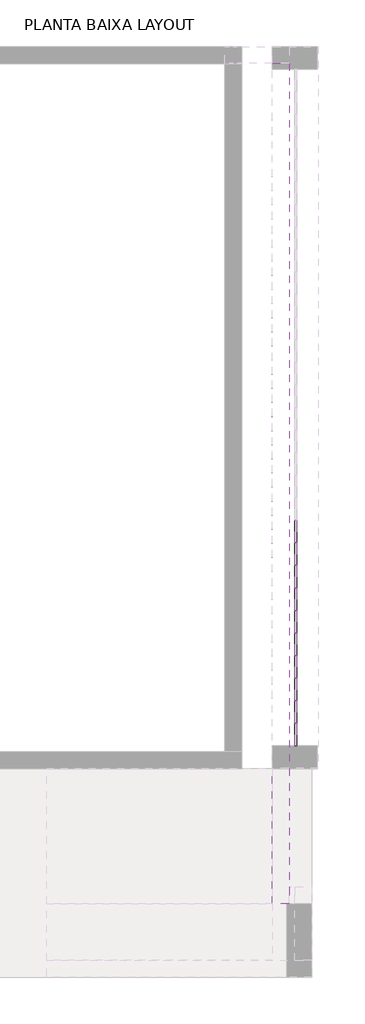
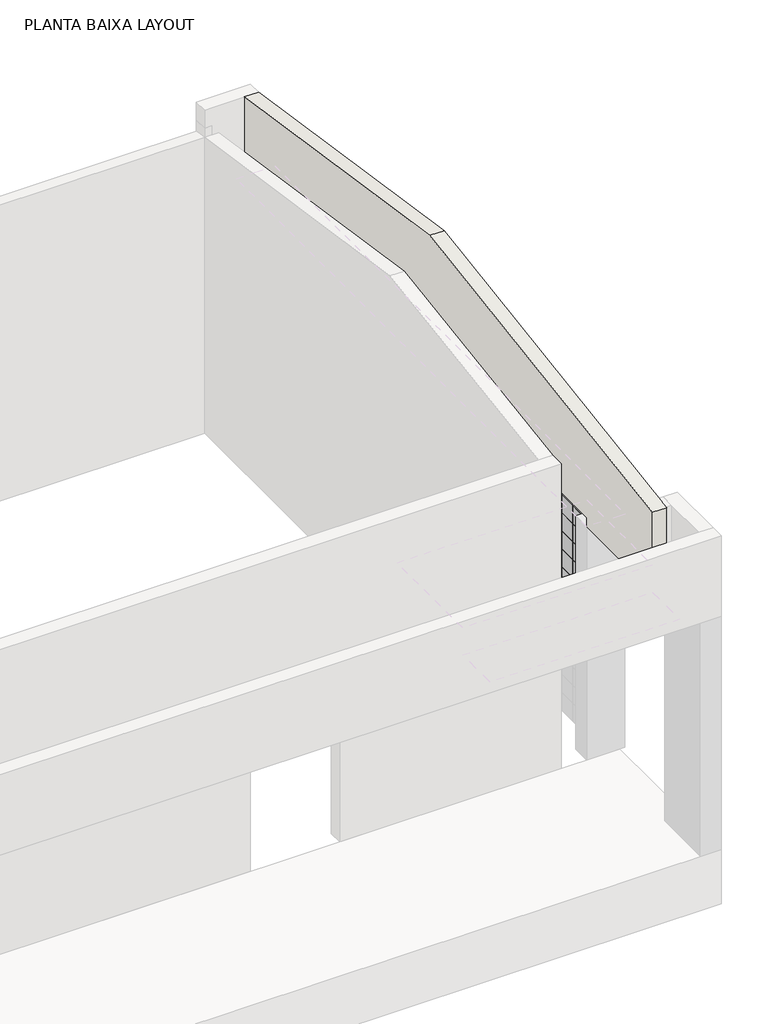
# One storey, part 3 of 6: 121 plates, 1 wall.
"""IFC4 building model written with IfcOpenShell, lengths in millimetres."""

from ifc_helpers import new_model, si_unit, origin, place, context, project, spatial, faceted_brep, transform, mapped, element, save
from components import system_panel_vidro_2cm_d02c202c

model = new_model("IFC4")

# Units and contexts
model_context = context("Model", 3, world=origin())
ifc_project = project(units=[si_unit("LENGTHUNIT", "METRE", prefix="MILLI")], contexts=[model_context])

# Site, building, storey
site = spatial("IfcSite", under=ifc_project)
building = spatial("IfcBuilding", under=site)
storey = spatial("IfcBuildingStorey", under=building, Name="PLANTA BAIXA LAYOUT", Elevation=0.0)

# Plates
placement = place(None, origin())
system_panel_vidro_2cm_shape = system_panel_vidro_2cm_d02c202c(model_context)
element("IfcPlate", 1, ObjectType="System Panel : Vidro 2cm", at=placement, inside=storey, context=model_context, shape_type="MappedRepresentation", body=[
    mapped(system_panel_vidro_2cm_shape, transform((17877.6165906, -6817.0637549, 0.0), x_axis=(0.0, 1.0, 0.0), y_axis=(-1.0, 0.0, 0.0), z_axis=(0.0, 0.0, 1.0))),
])
element("IfcPlate", 2, ObjectType="System Panel : Vidro 2cm", at=placement, inside=storey, context=model_context, shape_type="MappedRepresentation", body=[
    mapped(system_panel_vidro_2cm_shape, transform((17877.6165906, -6617.0637549, 0.0), x_axis=(0.0, 1.0, 0.0), y_axis=(-1.0, 0.0, 0.0), z_axis=(0.0, 0.0, 1.0))),
])
element("IfcPlate", 3, ObjectType="System Panel : Vidro 2cm", at=placement, inside=storey, context=model_context, shape_type="MappedRepresentation", body=[
    mapped(system_panel_vidro_2cm_shape, transform((17877.6165906, -6417.0637549, 0.0), x_axis=(0.0, 1.0, 0.0), y_axis=(-1.0, 0.0, 0.0), z_axis=(0.0, 0.0, 1.0))),
])
element("IfcPlate", 4, ObjectType="System Panel : Vidro 2cm", at=placement, inside=storey, context=model_context, shape_type="MappedRepresentation", body=[
    mapped(system_panel_vidro_2cm_shape, transform((17877.6165906, -6217.0637549, 0.0), x_axis=(0.0, 1.0, 0.0), y_axis=(-1.0, 0.0, 0.0), z_axis=(0.0, 0.0, 1.0))),
])
element("IfcPlate", 5, ObjectType="System Panel : Vidro 2cm", at=placement, inside=storey, context=model_context, shape_type="MappedRepresentation", body=[
    mapped(system_panel_vidro_2cm_shape, transform((17877.6165906, -6017.0637549, 0.0), x_axis=(0.0, 1.0, 0.0), y_axis=(-1.0, 0.0, 0.0), z_axis=(0.0, 0.0, 1.0))),
])
element("IfcPlate", 6, ObjectType="System Panel : Vidro 2cm", at=placement, inside=storey, context=model_context, shape_type="MappedRepresentation", body=[
    mapped(system_panel_vidro_2cm_shape, transform((17877.6165906, -5817.0637549, 0.0), x_axis=(0.0, 1.0, 0.0), y_axis=(-1.0, 0.0, 0.0), z_axis=(0.0, 0.0, 1.0))),
])
element("IfcPlate", 7, ObjectType="System Panel : Vidro 2cm", at=placement, inside=storey, context=model_context, shape_type="MappedRepresentation", body=[
    mapped(system_panel_vidro_2cm_shape, transform((17877.6165906, -5617.0637549, 0.0), x_axis=(0.0, 1.0, 0.0), y_axis=(-1.0, 0.0, 0.0), z_axis=(0.0, 0.0, 1.0))),
])
element("IfcPlate", 8, ObjectType="System Panel : Vidro 2cm", at=placement, inside=storey, context=model_context, shape_type="MappedRepresentation", body=[
    mapped(system_panel_vidro_2cm_shape, transform((17877.6165906, -5417.0637549, 0.0), x_axis=(0.0, 1.0, 0.0), y_axis=(-1.0, 0.0, 0.0), z_axis=(0.0, 0.0, 1.0))),
])
element("IfcPlate", 9, ObjectType="System Panel : Vidro 2cm", at=placement, inside=storey, context=model_context, shape_type="MappedRepresentation", body=[
    mapped(system_panel_vidro_2cm_shape, transform((17877.6165906, -5217.0637549, 0.0), x_axis=(0.0, 1.0, 0.0), y_axis=(-1.0, 0.0, 0.0), z_axis=(0.0, 0.0, 1.0))),
])
element("IfcPlate", 10, ObjectType="System Panel : Vidro 2cm", at=placement, inside=storey, context=model_context, shape_type="MappedRepresentation", body=[
    mapped(system_panel_vidro_2cm_shape, transform((17877.6165906, -5017.0637549, 0.0), x_axis=(0.0, 1.0, 0.0), y_axis=(-1.0, 0.0, 0.0), z_axis=(0.0, 0.0, 1.0))),
])
element("IfcPlate", 11, ObjectType="System Panel : Vidro 2cm", at=placement, inside=storey, context=model_context, shape_type="MappedRepresentation", body=[
    mapped(system_panel_vidro_2cm_shape, transform((17877.6165906, -6817.0637549, 200.0), x_axis=(0.0, 1.0, 0.0), y_axis=(-1.0, 0.0, 0.0), z_axis=(0.0, 0.0, 1.0))),
])
element("IfcPlate", 12, ObjectType="System Panel : Vidro 2cm", at=placement, inside=storey, context=model_context, shape_type="MappedRepresentation", body=[
    mapped(system_panel_vidro_2cm_shape, transform((17877.6165906, -6617.0637549, 200.0), x_axis=(0.0, 1.0, 0.0), y_axis=(-1.0, 0.0, 0.0), z_axis=(0.0, 0.0, 1.0))),
])
element("IfcPlate", 13, ObjectType="System Panel : Vidro 2cm", at=placement, inside=storey, context=model_context, shape_type="MappedRepresentation", body=[
    mapped(system_panel_vidro_2cm_shape, transform((17877.6165906, -6417.0637549, 200.0), x_axis=(0.0, 1.0, 0.0), y_axis=(-1.0, 0.0, 0.0), z_axis=(0.0, 0.0, 1.0))),
])
element("IfcPlate", 14, ObjectType="System Panel : Vidro 2cm", at=placement, inside=storey, context=model_context, shape_type="MappedRepresentation", body=[
    mapped(system_panel_vidro_2cm_shape, transform((17877.6165906, -6217.0637549, 200.0), x_axis=(0.0, 1.0, 0.0), y_axis=(-1.0, 0.0, 0.0), z_axis=(0.0, 0.0, 1.0))),
])
element("IfcPlate", 15, ObjectType="System Panel : Vidro 2cm", at=placement, inside=storey, context=model_context, shape_type="MappedRepresentation", body=[
    mapped(system_panel_vidro_2cm_shape, transform((17877.6165906, -6017.0637549, 200.0), x_axis=(0.0, 1.0, 0.0), y_axis=(-1.0, 0.0, 0.0), z_axis=(0.0, 0.0, 1.0))),
])
element("IfcPlate", 16, ObjectType="System Panel : Vidro 2cm", at=placement, inside=storey, context=model_context, shape_type="MappedRepresentation", body=[
    mapped(system_panel_vidro_2cm_shape, transform((17877.6165906, -5817.0637549, 200.0), x_axis=(0.0, 1.0, 0.0), y_axis=(-1.0, 0.0, 0.0), z_axis=(0.0, 0.0, 1.0))),
])
element("IfcPlate", 17, ObjectType="System Panel : Vidro 2cm", at=placement, inside=storey, context=model_context, shape_type="MappedRepresentation", body=[
    mapped(system_panel_vidro_2cm_shape, transform((17877.6165906, -5617.0637549, 200.0), x_axis=(0.0, 1.0, 0.0), y_axis=(-1.0, 0.0, 0.0), z_axis=(0.0, 0.0, 1.0))),
])
element("IfcPlate", 18, ObjectType="System Panel : Vidro 2cm", at=placement, inside=storey, context=model_context, shape_type="MappedRepresentation", body=[
    mapped(system_panel_vidro_2cm_shape, transform((17877.6165906, -5417.0637549, 200.0), x_axis=(0.0, 1.0, 0.0), y_axis=(-1.0, 0.0, 0.0), z_axis=(0.0, 0.0, 1.0))),
])
element("IfcPlate", 19, ObjectType="System Panel : Vidro 2cm", at=placement, inside=storey, context=model_context, shape_type="MappedRepresentation", body=[
    mapped(system_panel_vidro_2cm_shape, transform((17877.6165906, -5217.0637549, 200.0), x_axis=(0.0, 1.0, 0.0), y_axis=(-1.0, 0.0, 0.0), z_axis=(0.0, 0.0, 1.0))),
])
element("IfcPlate", 20, ObjectType="System Panel : Vidro 2cm", at=placement, inside=storey, context=model_context, shape_type="MappedRepresentation", body=[
    mapped(system_panel_vidro_2cm_shape, transform((17877.6165906, -5017.0637549, 200.0), x_axis=(0.0, 1.0, 0.0), y_axis=(-1.0, 0.0, 0.0), z_axis=(0.0, 0.0, 1.0))),
])
element("IfcPlate", 21, ObjectType="System Panel : Vidro 2cm", at=placement, inside=storey, context=model_context, shape_type="MappedRepresentation", body=[
    mapped(system_panel_vidro_2cm_shape, transform((17877.6165906, -6817.0637549, 400.0), x_axis=(0.0, 1.0, 0.0), y_axis=(-1.0, 0.0, 0.0), z_axis=(0.0, 0.0, 1.0))),
])
element("IfcPlate", 22, ObjectType="System Panel : Vidro 2cm", at=placement, inside=storey, context=model_context, shape_type="MappedRepresentation", body=[
    mapped(system_panel_vidro_2cm_shape, transform((17877.6165906, -6617.0637549, 400.0), x_axis=(0.0, 1.0, 0.0), y_axis=(-1.0, 0.0, 0.0), z_axis=(0.0, 0.0, 1.0))),
])
element("IfcPlate", 23, ObjectType="System Panel : Vidro 2cm", at=placement, inside=storey, context=model_context, shape_type="MappedRepresentation", body=[
    mapped(system_panel_vidro_2cm_shape, transform((17877.6165906, -6417.0637549, 400.0), x_axis=(0.0, 1.0, 0.0), y_axis=(-1.0, 0.0, 0.0), z_axis=(0.0, 0.0, 1.0))),
])
element("IfcPlate", 24, ObjectType="System Panel : Vidro 2cm", at=placement, inside=storey, context=model_context, shape_type="MappedRepresentation", body=[
    mapped(system_panel_vidro_2cm_shape, transform((17877.6165906, -6217.0637549, 400.0), x_axis=(0.0, 1.0, 0.0), y_axis=(-1.0, 0.0, 0.0), z_axis=(0.0, 0.0, 1.0))),
])
element("IfcPlate", 25, ObjectType="System Panel : Vidro 2cm", at=placement, inside=storey, context=model_context, shape_type="MappedRepresentation", body=[
    mapped(system_panel_vidro_2cm_shape, transform((17877.6165906, -6017.0637549, 400.0), x_axis=(0.0, 1.0, 0.0), y_axis=(-1.0, 0.0, 0.0), z_axis=(0.0, 0.0, 1.0))),
])
element("IfcPlate", 26, ObjectType="System Panel : Vidro 2cm", at=placement, inside=storey, context=model_context, shape_type="MappedRepresentation", body=[
    mapped(system_panel_vidro_2cm_shape, transform((17877.6165906, -5817.0637549, 400.0), x_axis=(0.0, 1.0, 0.0), y_axis=(-1.0, 0.0, 0.0), z_axis=(0.0, 0.0, 1.0))),
])
element("IfcPlate", 27, ObjectType="System Panel : Vidro 2cm", at=placement, inside=storey, context=model_context, shape_type="MappedRepresentation", body=[
    mapped(system_panel_vidro_2cm_shape, transform((17877.6165906, -5617.0637549, 400.0), x_axis=(0.0, 1.0, 0.0), y_axis=(-1.0, 0.0, 0.0), z_axis=(0.0, 0.0, 1.0))),
])
element("IfcPlate", 28, ObjectType="System Panel : Vidro 2cm", at=placement, inside=storey, context=model_context, shape_type="MappedRepresentation", body=[
    mapped(system_panel_vidro_2cm_shape, transform((17877.6165906, -5417.0637549, 400.0), x_axis=(0.0, 1.0, 0.0), y_axis=(-1.0, 0.0, 0.0), z_axis=(0.0, 0.0, 1.0))),
])
element("IfcPlate", 29, ObjectType="System Panel : Vidro 2cm", at=placement, inside=storey, context=model_context, shape_type="MappedRepresentation", body=[
    mapped(system_panel_vidro_2cm_shape, transform((17877.6165906, -5217.0637549, 400.0), x_axis=(0.0, 1.0, 0.0), y_axis=(-1.0, 0.0, 0.0), z_axis=(0.0, 0.0, 1.0))),
])
element("IfcPlate", 30, ObjectType="System Panel : Vidro 2cm", at=placement, inside=storey, context=model_context, shape_type="MappedRepresentation", body=[
    mapped(system_panel_vidro_2cm_shape, transform((17877.6165906, -5017.0637549, 400.0), x_axis=(0.0, 1.0, 0.0), y_axis=(-1.0, 0.0, 0.0), z_axis=(0.0, 0.0, 1.0))),
])
element("IfcPlate", 31, ObjectType="System Panel : Vidro 2cm", at=placement, inside=storey, context=model_context, shape_type="MappedRepresentation", body=[
    mapped(system_panel_vidro_2cm_shape, transform((17877.6165906, -6817.0637549, 600.0), x_axis=(0.0, 1.0, 0.0), y_axis=(-1.0, 0.0, 0.0), z_axis=(0.0, 0.0, 1.0))),
])
element("IfcPlate", 32, ObjectType="System Panel : Vidro 2cm", at=placement, inside=storey, context=model_context, shape_type="MappedRepresentation", body=[
    mapped(system_panel_vidro_2cm_shape, transform((17877.6165906, -6617.0637549, 600.0), x_axis=(0.0, 1.0, 0.0), y_axis=(-1.0, 0.0, 0.0), z_axis=(0.0, 0.0, 1.0))),
])
element("IfcPlate", 33, ObjectType="System Panel : Vidro 2cm", at=placement, inside=storey, context=model_context, shape_type="MappedRepresentation", body=[
    mapped(system_panel_vidro_2cm_shape, transform((17877.6165906, -6417.0637549, 600.0), x_axis=(0.0, 1.0, 0.0), y_axis=(-1.0, 0.0, 0.0), z_axis=(0.0, 0.0, 1.0))),
])
element("IfcPlate", 34, ObjectType="System Panel : Vidro 2cm", at=placement, inside=storey, context=model_context, shape_type="MappedRepresentation", body=[
    mapped(system_panel_vidro_2cm_shape, transform((17877.6165906, -6217.0637549, 600.0), x_axis=(0.0, 1.0, 0.0), y_axis=(-1.0, 0.0, 0.0), z_axis=(0.0, 0.0, 1.0))),
])
element("IfcPlate", 35, ObjectType="System Panel : Vidro 2cm", at=placement, inside=storey, context=model_context, shape_type="MappedRepresentation", body=[
    mapped(system_panel_vidro_2cm_shape, transform((17877.6165906, -6017.0637549, 600.0), x_axis=(0.0, 1.0, 0.0), y_axis=(-1.0, 0.0, 0.0), z_axis=(0.0, 0.0, 1.0))),
])
element("IfcPlate", 36, ObjectType="System Panel : Vidro 2cm", at=placement, inside=storey, context=model_context, shape_type="MappedRepresentation", body=[
    mapped(system_panel_vidro_2cm_shape, transform((17877.6165906, -5817.0637549, 600.0), x_axis=(0.0, 1.0, 0.0), y_axis=(-1.0, 0.0, 0.0), z_axis=(0.0, 0.0, 1.0))),
])
element("IfcPlate", 37, ObjectType="System Panel : Vidro 2cm", at=placement, inside=storey, context=model_context, shape_type="MappedRepresentation", body=[
    mapped(system_panel_vidro_2cm_shape, transform((17877.6165906, -6817.0637549, 800.0), x_axis=(0.0, 1.0, 0.0), y_axis=(-1.0, 0.0, 0.0), z_axis=(0.0, 0.0, 1.0))),
])
element("IfcPlate", 38, ObjectType="System Panel : Vidro 2cm", at=placement, inside=storey, context=model_context, shape_type="MappedRepresentation", body=[
    mapped(system_panel_vidro_2cm_shape, transform((17877.6165906, -6617.0637549, 800.0), x_axis=(0.0, 1.0, 0.0), y_axis=(-1.0, 0.0, 0.0), z_axis=(0.0, 0.0, 1.0))),
])
element("IfcPlate", 39, ObjectType="System Panel : Vidro 2cm", at=placement, inside=storey, context=model_context, shape_type="MappedRepresentation", body=[
    mapped(system_panel_vidro_2cm_shape, transform((17877.6165906, -6417.0637549, 800.0), x_axis=(0.0, 1.0, 0.0), y_axis=(-1.0, 0.0, 0.0), z_axis=(0.0, 0.0, 1.0))),
])
element("IfcPlate", 40, ObjectType="System Panel : Vidro 2cm", at=placement, inside=storey, context=model_context, shape_type="MappedRepresentation", body=[
    mapped(system_panel_vidro_2cm_shape, transform((17877.6165906, -6217.0637549, 800.0), x_axis=(0.0, 1.0, 0.0), y_axis=(-1.0, 0.0, 0.0), z_axis=(0.0, 0.0, 1.0))),
])
element("IfcPlate", 41, ObjectType="System Panel : Vidro 2cm", at=placement, inside=storey, context=model_context, shape_type="MappedRepresentation", body=[
    mapped(system_panel_vidro_2cm_shape, transform((17877.6165906, -6017.0637549, 800.0), x_axis=(0.0, 1.0, 0.0), y_axis=(-1.0, 0.0, 0.0), z_axis=(0.0, 0.0, 1.0))),
])
element("IfcPlate", 42, ObjectType="System Panel : Vidro 2cm", at=placement, inside=storey, context=model_context, shape_type="MappedRepresentation", body=[
    mapped(system_panel_vidro_2cm_shape, transform((17877.6165906, -7817.0637549, 1000.0), x_axis=(0.0, 1.0, 0.0), y_axis=(-1.0, 0.0, 0.0), z_axis=(0.0, 0.0, 1.0))),
])
element("IfcPlate", 43, ObjectType="System Panel : Vidro 2cm", at=placement, inside=storey, context=model_context, shape_type="MappedRepresentation", body=[
    mapped(system_panel_vidro_2cm_shape, transform((17877.6165906, -7617.0637549, 1000.0), x_axis=(0.0, 1.0, 0.0), y_axis=(-1.0, 0.0, 0.0), z_axis=(0.0, 0.0, 1.0))),
])
element("IfcPlate", 44, ObjectType="System Panel : Vidro 2cm", at=placement, inside=storey, context=model_context, shape_type="MappedRepresentation", body=[
    mapped(system_panel_vidro_2cm_shape, transform((17877.6165906, -7417.0637549, 1000.0), x_axis=(0.0, 1.0, 0.0), y_axis=(-1.0, 0.0, 0.0), z_axis=(0.0, 0.0, 1.0))),
])
element("IfcPlate", 45, ObjectType="System Panel : Vidro 2cm", at=placement, inside=storey, context=model_context, shape_type="MappedRepresentation", body=[
    mapped(system_panel_vidro_2cm_shape, transform((17877.6165906, -7217.0637549, 1000.0), x_axis=(0.0, 1.0, 0.0), y_axis=(-1.0, 0.0, 0.0), z_axis=(0.0, 0.0, 1.0))),
])
element("IfcPlate", 46, ObjectType="System Panel : Vidro 2cm", at=placement, inside=storey, context=model_context, shape_type="MappedRepresentation", body=[
    mapped(system_panel_vidro_2cm_shape, transform((17877.6165906, -7017.0637549, 1000.0), x_axis=(0.0, 1.0, 0.0), y_axis=(-1.0, 0.0, 0.0), z_axis=(0.0, 0.0, 1.0))),
])
element("IfcPlate", 47, ObjectType="System Panel : Vidro 2cm", at=placement, inside=storey, context=model_context, shape_type="MappedRepresentation", body=[
    mapped(system_panel_vidro_2cm_shape, transform((17877.6165906, -6817.0637549, 1000.0), x_axis=(0.0, 1.0, 0.0), y_axis=(-1.0, 0.0, 0.0), z_axis=(0.0, 0.0, 1.0))),
])
element("IfcPlate", 48, ObjectType="System Panel : Vidro 2cm", at=placement, inside=storey, context=model_context, shape_type="MappedRepresentation", body=[
    mapped(system_panel_vidro_2cm_shape, transform((17877.6165906, -6617.0637549, 1000.0), x_axis=(0.0, 1.0, 0.0), y_axis=(-1.0, 0.0, 0.0), z_axis=(0.0, 0.0, 1.0))),
])
element("IfcPlate", 49, ObjectType="System Panel : Vidro 2cm", at=placement, inside=storey, context=model_context, shape_type="MappedRepresentation", body=[
    mapped(system_panel_vidro_2cm_shape, transform((17877.6165906, -6417.0637549, 1000.0), x_axis=(0.0, 1.0, 0.0), y_axis=(-1.0, 0.0, 0.0), z_axis=(0.0, 0.0, 1.0))),
])
element("IfcPlate", 50, ObjectType="System Panel : Vidro 2cm", at=placement, inside=storey, context=model_context, shape_type="MappedRepresentation", body=[
    mapped(system_panel_vidro_2cm_shape, transform((17877.6165906, -6217.0637549, 1000.0), x_axis=(0.0, 1.0, 0.0), y_axis=(-1.0, 0.0, 0.0), z_axis=(0.0, 0.0, 1.0))),
])
element("IfcPlate", 51, ObjectType="System Panel : Vidro 2cm", at=placement, inside=storey, context=model_context, shape_type="MappedRepresentation", body=[
    mapped(system_panel_vidro_2cm_shape, transform((17877.6165906, -6017.0637549, 1000.0), x_axis=(0.0, 1.0, 0.0), y_axis=(-1.0, 0.0, 0.0), z_axis=(0.0, 0.0, 1.0))),
])
element("IfcPlate", 52, ObjectType="System Panel : Vidro 2cm", at=placement, inside=storey, context=model_context, shape_type="MappedRepresentation", body=[
    mapped(system_panel_vidro_2cm_shape, transform((17877.6165906, -7817.0637549, 1200.0), x_axis=(0.0, 1.0, 0.0), y_axis=(-1.0, 0.0, 0.0), z_axis=(0.0, 0.0, 1.0))),
])
element("IfcPlate", 53, ObjectType="System Panel : Vidro 2cm", at=placement, inside=storey, context=model_context, shape_type="MappedRepresentation", body=[
    mapped(system_panel_vidro_2cm_shape, transform((17877.6165906, -7617.0637549, 1200.0), x_axis=(0.0, 1.0, 0.0), y_axis=(-1.0, 0.0, 0.0), z_axis=(0.0, 0.0, 1.0))),
])
element("IfcPlate", 54, ObjectType="System Panel : Vidro 2cm", at=placement, inside=storey, context=model_context, shape_type="MappedRepresentation", body=[
    mapped(system_panel_vidro_2cm_shape, transform((17877.6165906, -7417.0637549, 1200.0), x_axis=(0.0, 1.0, 0.0), y_axis=(-1.0, 0.0, 0.0), z_axis=(0.0, 0.0, 1.0))),
])
element("IfcPlate", 55, ObjectType="System Panel : Vidro 2cm", at=placement, inside=storey, context=model_context, shape_type="MappedRepresentation", body=[
    mapped(system_panel_vidro_2cm_shape, transform((17877.6165906, -7217.0637549, 1200.0), x_axis=(0.0, 1.0, 0.0), y_axis=(-1.0, 0.0, 0.0), z_axis=(0.0, 0.0, 1.0))),
])
element("IfcPlate", 56, ObjectType="System Panel : Vidro 2cm", at=placement, inside=storey, context=model_context, shape_type="MappedRepresentation", body=[
    mapped(system_panel_vidro_2cm_shape, transform((17877.6165906, -7017.0637549, 1200.0), x_axis=(0.0, 1.0, 0.0), y_axis=(-1.0, 0.0, 0.0), z_axis=(0.0, 0.0, 1.0))),
])
element("IfcPlate", 57, ObjectType="System Panel : Vidro 2cm", at=placement, inside=storey, context=model_context, shape_type="MappedRepresentation", body=[
    mapped(system_panel_vidro_2cm_shape, transform((17877.6165906, -6817.0637549, 1200.0), x_axis=(0.0, 1.0, 0.0), y_axis=(-1.0, 0.0, 0.0), z_axis=(0.0, 0.0, 1.0))),
])
element("IfcPlate", 58, ObjectType="System Panel : Vidro 2cm", at=placement, inside=storey, context=model_context, shape_type="MappedRepresentation", body=[
    mapped(system_panel_vidro_2cm_shape, transform((17877.6165906, -6617.0637549, 1200.0), x_axis=(0.0, 1.0, 0.0), y_axis=(-1.0, 0.0, 0.0), z_axis=(0.0, 0.0, 1.0))),
])
element("IfcPlate", 59, ObjectType="System Panel : Vidro 2cm", at=placement, inside=storey, context=model_context, shape_type="MappedRepresentation", body=[
    mapped(system_panel_vidro_2cm_shape, transform((17877.6165906, -6417.0637549, 1200.0), x_axis=(0.0, 1.0, 0.0), y_axis=(-1.0, 0.0, 0.0), z_axis=(0.0, 0.0, 1.0))),
])
element("IfcPlate", 60, ObjectType="System Panel : Vidro 2cm", at=placement, inside=storey, context=model_context, shape_type="MappedRepresentation", body=[
    mapped(system_panel_vidro_2cm_shape, transform((17877.6165906, -6217.0637549, 1200.0), x_axis=(0.0, 1.0, 0.0), y_axis=(-1.0, 0.0, 0.0), z_axis=(0.0, 0.0, 1.0))),
])
element("IfcPlate", 61, ObjectType="System Panel : Vidro 2cm", at=placement, inside=storey, context=model_context, shape_type="MappedRepresentation", body=[
    mapped(system_panel_vidro_2cm_shape, transform((17877.6165906, -6017.0637549, 1200.0), x_axis=(0.0, 1.0, 0.0), y_axis=(-1.0, 0.0, 0.0), z_axis=(0.0, 0.0, 1.0))),
])
element("IfcPlate", 62, ObjectType="System Panel : Vidro 2cm", at=placement, inside=storey, context=model_context, shape_type="MappedRepresentation", body=[
    mapped(system_panel_vidro_2cm_shape, transform((17877.6165906, -7817.0637549, 1400.0), x_axis=(0.0, 1.0, 0.0), y_axis=(-1.0, 0.0, 0.0), z_axis=(0.0, 0.0, 1.0))),
])
element("IfcPlate", 63, ObjectType="System Panel : Vidro 2cm", at=placement, inside=storey, context=model_context, shape_type="MappedRepresentation", body=[
    mapped(system_panel_vidro_2cm_shape, transform((17877.6165906, -7617.0637549, 1400.0), x_axis=(0.0, 1.0, 0.0), y_axis=(-1.0, 0.0, 0.0), z_axis=(0.0, 0.0, 1.0))),
])
element("IfcPlate", 64, ObjectType="System Panel : Vidro 2cm", at=placement, inside=storey, context=model_context, shape_type="MappedRepresentation", body=[
    mapped(system_panel_vidro_2cm_shape, transform((17877.6165906, -7417.0637549, 1400.0), x_axis=(0.0, 1.0, 0.0), y_axis=(-1.0, 0.0, 0.0), z_axis=(0.0, 0.0, 1.0))),
])
element("IfcPlate", 65, ObjectType="System Panel : Vidro 2cm", at=placement, inside=storey, context=model_context, shape_type="MappedRepresentation", body=[
    mapped(system_panel_vidro_2cm_shape, transform((17877.6165906, -7217.0637549, 1400.0), x_axis=(0.0, 1.0, 0.0), y_axis=(-1.0, 0.0, 0.0), z_axis=(0.0, 0.0, 1.0))),
])
element("IfcPlate", 66, ObjectType="System Panel : Vidro 2cm", at=placement, inside=storey, context=model_context, shape_type="MappedRepresentation", body=[
    mapped(system_panel_vidro_2cm_shape, transform((17877.6165906, -7017.0637549, 1400.0), x_axis=(0.0, 1.0, 0.0), y_axis=(-1.0, 0.0, 0.0), z_axis=(0.0, 0.0, 1.0))),
])
element("IfcPlate", 67, ObjectType="System Panel : Vidro 2cm", at=placement, inside=storey, context=model_context, shape_type="MappedRepresentation", body=[
    mapped(system_panel_vidro_2cm_shape, transform((17877.6165906, -6817.0637549, 1400.0), x_axis=(0.0, 1.0, 0.0), y_axis=(-1.0, 0.0, 0.0), z_axis=(0.0, 0.0, 1.0))),
])
element("IfcPlate", 68, ObjectType="System Panel : Vidro 2cm", at=placement, inside=storey, context=model_context, shape_type="MappedRepresentation", body=[
    mapped(system_panel_vidro_2cm_shape, transform((17877.6165906, -6617.0637549, 1400.0), x_axis=(0.0, 1.0, 0.0), y_axis=(-1.0, 0.0, 0.0), z_axis=(0.0, 0.0, 1.0))),
])
element("IfcPlate", 69, ObjectType="System Panel : Vidro 2cm", at=placement, inside=storey, context=model_context, shape_type="MappedRepresentation", body=[
    mapped(system_panel_vidro_2cm_shape, transform((17877.6165906, -6417.0637549, 1400.0), x_axis=(0.0, 1.0, 0.0), y_axis=(-1.0, 0.0, 0.0), z_axis=(0.0, 0.0, 1.0))),
])
element("IfcPlate", 70, ObjectType="System Panel : Vidro 2cm", at=placement, inside=storey, context=model_context, shape_type="MappedRepresentation", body=[
    mapped(system_panel_vidro_2cm_shape, transform((17877.6165906, -6217.0637549, 1400.0), x_axis=(0.0, 1.0, 0.0), y_axis=(-1.0, 0.0, 0.0), z_axis=(0.0, 0.0, 1.0))),
])
element("IfcPlate", 71, ObjectType="System Panel : Vidro 2cm", at=placement, inside=storey, context=model_context, shape_type="MappedRepresentation", body=[
    mapped(system_panel_vidro_2cm_shape, transform((17877.6165906, -6017.0637549, 1400.0), x_axis=(0.0, 1.0, 0.0), y_axis=(-1.0, 0.0, 0.0), z_axis=(0.0, 0.0, 1.0))),
])
element("IfcPlate", 72, ObjectType="System Panel : Vidro 2cm", at=placement, inside=storey, context=model_context, shape_type="MappedRepresentation", body=[
    mapped(system_panel_vidro_2cm_shape, transform((17877.6165906, -7817.0637549, 1600.0), x_axis=(0.0, 1.0, 0.0), y_axis=(-1.0, 0.0, 0.0), z_axis=(0.0, 0.0, 1.0))),
])
element("IfcPlate", 73, ObjectType="System Panel : Vidro 2cm", at=placement, inside=storey, context=model_context, shape_type="MappedRepresentation", body=[
    mapped(system_panel_vidro_2cm_shape, transform((17877.6165906, -7617.0637549, 1600.0), x_axis=(0.0, 1.0, 0.0), y_axis=(-1.0, 0.0, 0.0), z_axis=(0.0, 0.0, 1.0))),
])
element("IfcPlate", 74, ObjectType="System Panel : Vidro 2cm", at=placement, inside=storey, context=model_context, shape_type="MappedRepresentation", body=[
    mapped(system_panel_vidro_2cm_shape, transform((17877.6165906, -7417.0637549, 1600.0), x_axis=(0.0, 1.0, 0.0), y_axis=(-1.0, 0.0, 0.0), z_axis=(0.0, 0.0, 1.0))),
])
element("IfcPlate", 75, ObjectType="System Panel : Vidro 2cm", at=placement, inside=storey, context=model_context, shape_type="MappedRepresentation", body=[
    mapped(system_panel_vidro_2cm_shape, transform((17877.6165906, -7217.0637549, 1600.0), x_axis=(0.0, 1.0, 0.0), y_axis=(-1.0, 0.0, 0.0), z_axis=(0.0, 0.0, 1.0))),
])
element("IfcPlate", 76, ObjectType="System Panel : Vidro 2cm", at=placement, inside=storey, context=model_context, shape_type="MappedRepresentation", body=[
    mapped(system_panel_vidro_2cm_shape, transform((17877.6165906, -7017.0637549, 1600.0), x_axis=(0.0, 1.0, 0.0), y_axis=(-1.0, 0.0, 0.0), z_axis=(0.0, 0.0, 1.0))),
])
element("IfcPlate", 77, ObjectType="System Panel : Vidro 2cm", at=placement, inside=storey, context=model_context, shape_type="MappedRepresentation", body=[
    mapped(system_panel_vidro_2cm_shape, transform((17877.6165906, -6817.0637549, 1600.0), x_axis=(0.0, 1.0, 0.0), y_axis=(-1.0, 0.0, 0.0), z_axis=(0.0, 0.0, 1.0))),
])
element("IfcPlate", 78, ObjectType="System Panel : Vidro 2cm", at=placement, inside=storey, context=model_context, shape_type="MappedRepresentation", body=[
    mapped(system_panel_vidro_2cm_shape, transform((17877.6165906, -6617.0637549, 1600.0), x_axis=(0.0, 1.0, 0.0), y_axis=(-1.0, 0.0, 0.0), z_axis=(0.0, 0.0, 1.0))),
])
element("IfcPlate", 79, ObjectType="System Panel : Vidro 2cm", at=placement, inside=storey, context=model_context, shape_type="MappedRepresentation", body=[
    mapped(system_panel_vidro_2cm_shape, transform((17877.6165906, -6417.0637549, 1600.0), x_axis=(0.0, 1.0, 0.0), y_axis=(-1.0, 0.0, 0.0), z_axis=(0.0, 0.0, 1.0))),
])
element("IfcPlate", 80, ObjectType="System Panel : Vidro 2cm", at=placement, inside=storey, context=model_context, shape_type="MappedRepresentation", body=[
    mapped(system_panel_vidro_2cm_shape, transform((17877.6165906, -6217.0637549, 1600.0), x_axis=(0.0, 1.0, 0.0), y_axis=(-1.0, 0.0, 0.0), z_axis=(0.0, 0.0, 1.0))),
])
element("IfcPlate", 81, ObjectType="System Panel : Vidro 2cm", at=placement, inside=storey, context=model_context, shape_type="MappedRepresentation", body=[
    mapped(system_panel_vidro_2cm_shape, transform((17877.6165906, -6017.0637549, 1600.0), x_axis=(0.0, 1.0, 0.0), y_axis=(-1.0, 0.0, 0.0), z_axis=(0.0, 0.0, 1.0))),
])
element("IfcPlate", 82, ObjectType="System Panel : Vidro 2cm", at=placement, inside=storey, context=model_context, shape_type="MappedRepresentation", body=[
    mapped(system_panel_vidro_2cm_shape, transform((17877.6165906, -7817.0637549, 1800.0), x_axis=(0.0, 1.0, 0.0), y_axis=(-1.0, 0.0, 0.0), z_axis=(0.0, 0.0, 1.0))),
])
element("IfcPlate", 83, ObjectType="System Panel : Vidro 2cm", at=placement, inside=storey, context=model_context, shape_type="MappedRepresentation", body=[
    mapped(system_panel_vidro_2cm_shape, transform((17877.6165906, -7617.0637549, 1800.0), x_axis=(0.0, 1.0, 0.0), y_axis=(-1.0, 0.0, 0.0), z_axis=(0.0, 0.0, 1.0))),
])
element("IfcPlate", 84, ObjectType="System Panel : Vidro 2cm", at=placement, inside=storey, context=model_context, shape_type="MappedRepresentation", body=[
    mapped(system_panel_vidro_2cm_shape, transform((17877.6165906, -7417.0637549, 1800.0), x_axis=(0.0, 1.0, 0.0), y_axis=(-1.0, 0.0, 0.0), z_axis=(0.0, 0.0, 1.0))),
])
element("IfcPlate", 85, ObjectType="System Panel : Vidro 2cm", at=placement, inside=storey, context=model_context, shape_type="MappedRepresentation", body=[
    mapped(system_panel_vidro_2cm_shape, transform((17877.6165906, -7217.0637549, 1800.0), x_axis=(0.0, 1.0, 0.0), y_axis=(-1.0, 0.0, 0.0), z_axis=(0.0, 0.0, 1.0))),
])
element("IfcPlate", 86, ObjectType="System Panel : Vidro 2cm", at=placement, inside=storey, context=model_context, shape_type="MappedRepresentation", body=[
    mapped(system_panel_vidro_2cm_shape, transform((17877.6165906, -7017.0637549, 1800.0), x_axis=(0.0, 1.0, 0.0), y_axis=(-1.0, 0.0, 0.0), z_axis=(0.0, 0.0, 1.0))),
])
element("IfcPlate", 87, ObjectType="System Panel : Vidro 2cm", at=placement, inside=storey, context=model_context, shape_type="MappedRepresentation", body=[
    mapped(system_panel_vidro_2cm_shape, transform((17877.6165906, -6817.0637549, 1800.0), x_axis=(0.0, 1.0, 0.0), y_axis=(-1.0, 0.0, 0.0), z_axis=(0.0, 0.0, 1.0))),
])
element("IfcPlate", 88, ObjectType="System Panel : Vidro 2cm", at=placement, inside=storey, context=model_context, shape_type="MappedRepresentation", body=[
    mapped(system_panel_vidro_2cm_shape, transform((17877.6165906, -6617.0637549, 1800.0), x_axis=(0.0, 1.0, 0.0), y_axis=(-1.0, 0.0, 0.0), z_axis=(0.0, 0.0, 1.0))),
])
element("IfcPlate", 89, ObjectType="System Panel : Vidro 2cm", at=placement, inside=storey, context=model_context, shape_type="MappedRepresentation", body=[
    mapped(system_panel_vidro_2cm_shape, transform((17877.6165906, -6417.0637549, 1800.0), x_axis=(0.0, 1.0, 0.0), y_axis=(-1.0, 0.0, 0.0), z_axis=(0.0, 0.0, 1.0))),
])
element("IfcPlate", 90, ObjectType="System Panel : Vidro 2cm", at=placement, inside=storey, context=model_context, shape_type="MappedRepresentation", body=[
    mapped(system_panel_vidro_2cm_shape, transform((17877.6165906, -6217.0637549, 1800.0), x_axis=(0.0, 1.0, 0.0), y_axis=(-1.0, 0.0, 0.0), z_axis=(0.0, 0.0, 1.0))),
])
element("IfcPlate", 91, ObjectType="System Panel : Vidro 2cm", at=placement, inside=storey, context=model_context, shape_type="MappedRepresentation", body=[
    mapped(system_panel_vidro_2cm_shape, transform((17877.6165906, -6017.0637549, 1800.0), x_axis=(0.0, 1.0, 0.0), y_axis=(-1.0, 0.0, 0.0), z_axis=(0.0, 0.0, 1.0))),
])
element("IfcPlate", 92, ObjectType="System Panel : Vidro 2cm", at=placement, inside=storey, context=model_context, shape_type="MappedRepresentation", body=[
    mapped(system_panel_vidro_2cm_shape, transform((17877.6165906, -7817.0637549, 2000.0), x_axis=(0.0, 1.0, 0.0), y_axis=(-1.0, 0.0, 0.0), z_axis=(0.0, 0.0, 1.0))),
])
element("IfcPlate", 93, ObjectType="System Panel : Vidro 2cm", at=placement, inside=storey, context=model_context, shape_type="MappedRepresentation", body=[
    mapped(system_panel_vidro_2cm_shape, transform((17877.6165906, -7617.0637549, 2000.0), x_axis=(0.0, 1.0, 0.0), y_axis=(-1.0, 0.0, 0.0), z_axis=(0.0, 0.0, 1.0))),
])
element("IfcPlate", 94, ObjectType="System Panel : Vidro 2cm", at=placement, inside=storey, context=model_context, shape_type="MappedRepresentation", body=[
    mapped(system_panel_vidro_2cm_shape, transform((17877.6165906, -7417.0637549, 2000.0), x_axis=(0.0, 1.0, 0.0), y_axis=(-1.0, 0.0, 0.0), z_axis=(0.0, 0.0, 1.0))),
])
element("IfcPlate", 95, ObjectType="System Panel : Vidro 2cm", at=placement, inside=storey, context=model_context, shape_type="MappedRepresentation", body=[
    mapped(system_panel_vidro_2cm_shape, transform((17877.6165906, -7217.0637549, 2000.0), x_axis=(0.0, 1.0, 0.0), y_axis=(-1.0, 0.0, 0.0), z_axis=(0.0, 0.0, 1.0))),
])
element("IfcPlate", 96, ObjectType="System Panel : Vidro 2cm", at=placement, inside=storey, context=model_context, shape_type="MappedRepresentation", body=[
    mapped(system_panel_vidro_2cm_shape, transform((17877.6165906, -7017.0637549, 2000.0), x_axis=(0.0, 1.0, 0.0), y_axis=(-1.0, 0.0, 0.0), z_axis=(0.0, 0.0, 1.0))),
])
element("IfcPlate", 97, ObjectType="System Panel : Vidro 2cm", at=placement, inside=storey, context=model_context, shape_type="MappedRepresentation", body=[
    mapped(system_panel_vidro_2cm_shape, transform((17877.6165906, -6817.0637549, 2000.0), x_axis=(0.0, 1.0, 0.0), y_axis=(-1.0, 0.0, 0.0), z_axis=(0.0, 0.0, 1.0))),
])
element("IfcPlate", 98, ObjectType="System Panel : Vidro 2cm", at=placement, inside=storey, context=model_context, shape_type="MappedRepresentation", body=[
    mapped(system_panel_vidro_2cm_shape, transform((17877.6165906, -6617.0637549, 2000.0), x_axis=(0.0, 1.0, 0.0), y_axis=(-1.0, 0.0, 0.0), z_axis=(0.0, 0.0, 1.0))),
])
element("IfcPlate", 99, ObjectType="System Panel : Vidro 2cm", at=placement, inside=storey, context=model_context, shape_type="MappedRepresentation", body=[
    mapped(system_panel_vidro_2cm_shape, transform((17877.6165906, -6417.0637549, 2000.0), x_axis=(0.0, 1.0, 0.0), y_axis=(-1.0, 0.0, 0.0), z_axis=(0.0, 0.0, 1.0))),
])
element("IfcPlate", 100, ObjectType="System Panel : Vidro 2cm", at=placement, inside=storey, context=model_context, shape_type="MappedRepresentation", body=[
    mapped(system_panel_vidro_2cm_shape, transform((17877.6165906, -6217.0637549, 2000.0), x_axis=(0.0, 1.0, 0.0), y_axis=(-1.0, 0.0, 0.0), z_axis=(0.0, 0.0, 1.0))),
])
element("IfcPlate", 101, ObjectType="System Panel : Vidro 2cm", at=placement, inside=storey, context=model_context, shape_type="MappedRepresentation", body=[
    mapped(system_panel_vidro_2cm_shape, transform((17877.6165906, -6017.0637549, 2000.0), x_axis=(0.0, 1.0, 0.0), y_axis=(-1.0, 0.0, 0.0), z_axis=(0.0, 0.0, 1.0))),
])
element("IfcPlate", 102, ObjectType="System Panel : Vidro 2cm", at=placement, inside=storey, context=model_context, shape_type="MappedRepresentation", body=[
    mapped(system_panel_vidro_2cm_shape, transform((17877.6165906, -7817.0637549, 2200.0), x_axis=(0.0, 1.0, 0.0), y_axis=(-1.0, 0.0, 0.0), z_axis=(0.0, 0.0, 1.0))),
])
element("IfcPlate", 103, ObjectType="System Panel : Vidro 2cm", at=placement, inside=storey, context=model_context, shape_type="MappedRepresentation", body=[
    mapped(system_panel_vidro_2cm_shape, transform((17877.6165906, -7617.0637549, 2200.0), x_axis=(0.0, 1.0, 0.0), y_axis=(-1.0, 0.0, 0.0), z_axis=(0.0, 0.0, 1.0))),
])
element("IfcPlate", 104, ObjectType="System Panel : Vidro 2cm", at=placement, inside=storey, context=model_context, shape_type="MappedRepresentation", body=[
    mapped(system_panel_vidro_2cm_shape, transform((17877.6165906, -7417.0637549, 2200.0), x_axis=(0.0, 1.0, 0.0), y_axis=(-1.0, 0.0, 0.0), z_axis=(0.0, 0.0, 1.0))),
])
element("IfcPlate", 105, ObjectType="System Panel : Vidro 2cm", at=placement, inside=storey, context=model_context, shape_type="MappedRepresentation", body=[
    mapped(system_panel_vidro_2cm_shape, transform((17877.6165906, -7217.0637549, 2200.0), x_axis=(0.0, 1.0, 0.0), y_axis=(-1.0, 0.0, 0.0), z_axis=(0.0, 0.0, 1.0))),
])
element("IfcPlate", 106, ObjectType="System Panel : Vidro 2cm", at=placement, inside=storey, context=model_context, shape_type="MappedRepresentation", body=[
    mapped(system_panel_vidro_2cm_shape, transform((17877.6165906, -7017.0637549, 2200.0), x_axis=(0.0, 1.0, 0.0), y_axis=(-1.0, 0.0, 0.0), z_axis=(0.0, 0.0, 1.0))),
])
element("IfcPlate", 107, ObjectType="System Panel : Vidro 2cm", at=placement, inside=storey, context=model_context, shape_type="MappedRepresentation", body=[
    mapped(system_panel_vidro_2cm_shape, transform((17877.6165906, -6817.0637549, 2200.0), x_axis=(0.0, 1.0, 0.0), y_axis=(-1.0, 0.0, 0.0), z_axis=(0.0, 0.0, 1.0))),
])
element("IfcPlate", 108, ObjectType="System Panel : Vidro 2cm", at=placement, inside=storey, context=model_context, shape_type="MappedRepresentation", body=[
    mapped(system_panel_vidro_2cm_shape, transform((17877.6165906, -6617.0637549, 2200.0), x_axis=(0.0, 1.0, 0.0), y_axis=(-1.0, 0.0, 0.0), z_axis=(0.0, 0.0, 1.0))),
])
element("IfcPlate", 109, ObjectType="System Panel : Vidro 2cm", at=placement, inside=storey, context=model_context, shape_type="MappedRepresentation", body=[
    mapped(system_panel_vidro_2cm_shape, transform((17877.6165906, -6417.0637549, 2200.0), x_axis=(0.0, 1.0, 0.0), y_axis=(-1.0, 0.0, 0.0), z_axis=(0.0, 0.0, 1.0))),
])
element("IfcPlate", 110, ObjectType="System Panel : Vidro 2cm", at=placement, inside=storey, context=model_context, shape_type="MappedRepresentation", body=[
    mapped(system_panel_vidro_2cm_shape, transform((17877.6165906, -6217.0637549, 2200.0), x_axis=(0.0, 1.0, 0.0), y_axis=(-1.0, 0.0, 0.0), z_axis=(0.0, 0.0, 1.0))),
])
element("IfcPlate", 111, ObjectType="System Panel : Vidro 2cm", at=placement, inside=storey, context=model_context, shape_type="MappedRepresentation", body=[
    mapped(system_panel_vidro_2cm_shape, transform((17877.6165906, -6017.0637549, 2200.0), x_axis=(0.0, 1.0, 0.0), y_axis=(-1.0, 0.0, 0.0), z_axis=(0.0, 0.0, 1.0))),
])
element("IfcPlate", 112, ObjectType="System Panel : Vidro 2cm", at=placement, inside=storey, context=model_context, shape_type="MappedRepresentation", body=[
    mapped(system_panel_vidro_2cm_shape, transform((17877.6165906, -7817.0637549, 2400.0), x_axis=(0.0, 1.0, 0.0), y_axis=(-1.0, 0.0, 0.0), z_axis=(0.0, 0.0, 1.0))),
])
element("IfcPlate", 113, ObjectType="System Panel : Vidro 2cm", at=placement, inside=storey, context=model_context, shape_type="MappedRepresentation", body=[
    mapped(system_panel_vidro_2cm_shape, transform((17877.6165906, -7617.0637549, 2400.0), x_axis=(0.0, 1.0, 0.0), y_axis=(-1.0, 0.0, 0.0), z_axis=(0.0, 0.0, 1.0))),
])
element("IfcPlate", 114, ObjectType="System Panel : Vidro 2cm", at=placement, inside=storey, context=model_context, shape_type="MappedRepresentation", body=[
    mapped(system_panel_vidro_2cm_shape, transform((17877.6165906, -7417.0637549, 2400.0), x_axis=(0.0, 1.0, 0.0), y_axis=(-1.0, 0.0, 0.0), z_axis=(0.0, 0.0, 1.0))),
])
element("IfcPlate", 115, ObjectType="System Panel : Vidro 2cm", at=placement, inside=storey, context=model_context, shape_type="MappedRepresentation", body=[
    mapped(system_panel_vidro_2cm_shape, transform((17877.6165906, -7217.0637549, 2400.0), x_axis=(0.0, 1.0, 0.0), y_axis=(-1.0, 0.0, 0.0), z_axis=(0.0, 0.0, 1.0))),
])
element("IfcPlate", 116, ObjectType="System Panel : Vidro 2cm", at=placement, inside=storey, context=model_context, shape_type="MappedRepresentation", body=[
    mapped(system_panel_vidro_2cm_shape, transform((17877.6165906, -7017.0637549, 2400.0), x_axis=(0.0, 1.0, 0.0), y_axis=(-1.0, 0.0, 0.0), z_axis=(0.0, 0.0, 1.0))),
])
element("IfcPlate", 117, ObjectType="System Panel : Vidro 2cm", at=placement, inside=storey, context=model_context, shape_type="MappedRepresentation", body=[
    mapped(system_panel_vidro_2cm_shape, transform((17877.6165906, -6817.0637549, 2400.0), x_axis=(0.0, 1.0, 0.0), y_axis=(-1.0, 0.0, 0.0), z_axis=(0.0, 0.0, 1.0))),
])
element("IfcPlate", 118, ObjectType="System Panel : Vidro 2cm", at=placement, inside=storey, context=model_context, shape_type="MappedRepresentation", body=[
    mapped(system_panel_vidro_2cm_shape, transform((17877.6165906, -6617.0637549, 2400.0), x_axis=(0.0, 1.0, 0.0), y_axis=(-1.0, 0.0, 0.0), z_axis=(0.0, 0.0, 1.0))),
])
element("IfcPlate", 119, ObjectType="System Panel : Vidro 2cm", at=placement, inside=storey, context=model_context, shape_type="MappedRepresentation", body=[
    mapped(system_panel_vidro_2cm_shape, transform((17877.6165906, -6417.0637549, 2400.0), x_axis=(0.0, 1.0, 0.0), y_axis=(-1.0, 0.0, 0.0), z_axis=(0.0, 0.0, 1.0))),
])
element("IfcPlate", 120, ObjectType="System Panel : Vidro 2cm", at=placement, inside=storey, context=model_context, shape_type="MappedRepresentation", body=[
    mapped(system_panel_vidro_2cm_shape, transform((17877.6165906, -6217.0637549, 2400.0), x_axis=(0.0, 1.0, 0.0), y_axis=(-1.0, 0.0, 0.0), z_axis=(0.0, 0.0, 1.0))),
])
element("IfcPlate", 121, ObjectType="System Panel : Vidro 2cm", at=placement, inside=storey, context=model_context, shape_type="MappedRepresentation", body=[
    mapped(system_panel_vidro_2cm_shape, transform((17877.6165906, -6017.0637549, 2400.0), x_axis=(0.0, 1.0, 0.0), y_axis=(-1.0, 0.0, 0.0), z_axis=(0.0, 0.0, 1.0))),
])

# Wall
element("IfcWall", 122, ObjectType="15cm- Reboco (ambos)", at=placement, inside=storey, context=model_context, shape_type="Brep", body=[
    faceted_brep([(17827.6165906, -1867.0637549, 3602.8562262), (17827.6165906, -5252.0637549, 4110.6062262), (17827.6165906, -9317.0637549, 3489.3947601), (17827.6165906, -9317.0637549, 2600.0), (17827.6165906, -9167.0637549, 2600.0), (17827.6165906, -8117.0637549, 2600.0), (17827.6165906, -8117.0637549, 2700.0), (17827.6165906, -1867.0637549, 2700.0), (17827.6165906, -1867.0637549, 3600.0), (17677.6165906, -5252.0637549, 4110.6062262), (17677.6165906, -1867.0637549, 3602.8562262), (17677.6165906, -1867.0637549, 2700.0), (17677.6165906, -8117.0637549, 2700.0), (17677.6165906, -8117.0637549, 2600.0), (17677.6165906, -9317.0637549, 2600.0), (17677.6165906, -9317.0637549, 3489.3947601)], [[[0, 1, 2, 3, 4, 5, 6, 7, 8]], [[9, 10, 11, 12, 13, 14, 15]], [[6, 12, 11, 7]], [[12, 6, 5, 13]], [[10, 0, 8, 7, 11]], [[3, 14, 13, 5, 4]], [[1, 0, 10, 9]], [[2, 1, 9, 15]], [[3, 2, 15, 14]]]),
])

save(model, "model.ifc")
